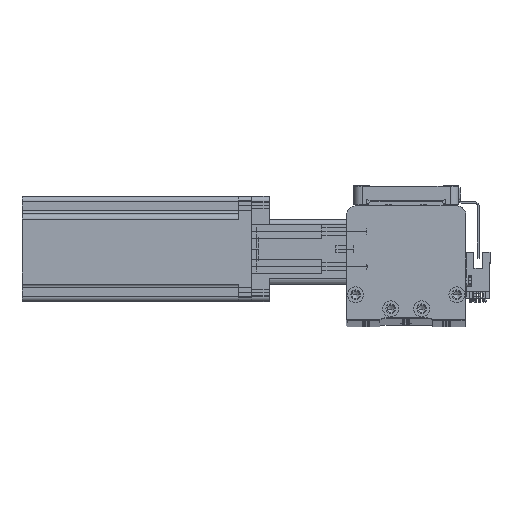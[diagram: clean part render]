
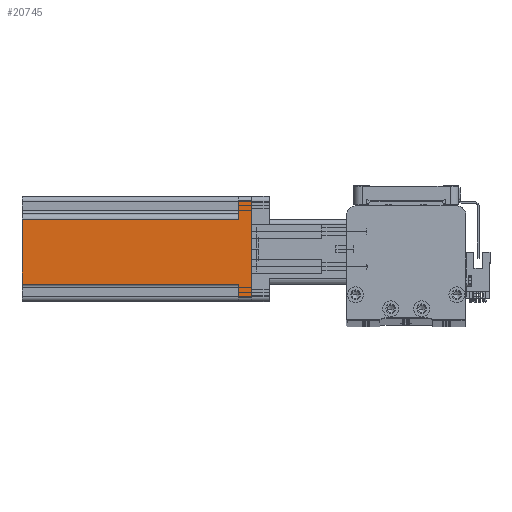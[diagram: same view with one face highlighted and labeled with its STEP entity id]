
A CAD part, top view. The second image highlights one B-rep face of the part: STEP entity #20745.
In plain terms, the highlighted planar face has unit normal (0, 0, 1) as drawn and (-1, 0, 0) by its records, which use the part's own axes.
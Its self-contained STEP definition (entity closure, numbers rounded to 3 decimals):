
#414 = CARTESIAN_POINT ( 'NONE',  ( -30., -17., 130.7 ) ) ;
#980 = LINE ( 'NONE', #2057, #45110 ) ;
#1914 = ORIENTED_EDGE ( 'NONE', *, *, #48246, .F. ) ;
#2057 = CARTESIAN_POINT ( 'NONE',  ( -30., 20., 7.5 ) ) ;
#2966 = CARTESIAN_POINT ( 'NONE',  ( -30., -30., 130.7 ) ) ;
#3509 = CARTESIAN_POINT ( 'NONE',  ( -30., 27., 7.5 ) ) ;
#7297 = DIRECTION ( 'NONE',  ( 1., 0., 0. ) ) ;
#7731 = EDGE_LOOP ( 'NONE', ( #41888, #40943, #24376, #1914, #21137, #19090, #14383, #45082 ) ) ;
#8279 = VERTEX_POINT ( 'NONE', #24650 ) ;
#8602 = LINE ( 'NONE', #52461, #19956 ) ;
#9698 = CARTESIAN_POINT ( 'NONE',  ( -30., 20., 130.7 ) ) ;
#10166 = CARTESIAN_POINT ( 'NONE',  ( -30., -30., 7.5 ) ) ;
#10387 = CARTESIAN_POINT ( 'NONE',  ( -30., 20., 7.5 ) ) ;
#11073 = VECTOR ( 'NONE', #20141, 1000. ) ;
#11610 = CARTESIAN_POINT ( 'NONE',  ( -30., -27., 7.5 ) ) ;
#13037 = VERTEX_POINT ( 'NONE', #37686 ) ;
#13745 = VERTEX_POINT ( 'NONE', #20908 ) ;
#14383 = ORIENTED_EDGE ( 'NONE', *, *, #41343, .T. ) ;
#15004 = VECTOR ( 'NONE', #21158, 1000. ) ;
#15376 = CARTESIAN_POINT ( 'NONE',  ( -30., -30., 0. ) ) ;
#15663 = PLANE ( 'NONE',  #19221 ) ;
#16794 = EDGE_CURVE ( 'NONE', #52750, #13745, #20191, .T. ) ;
#17163 = LINE ( 'NONE', #10166, #38600 ) ;
#17634 = EDGE_CURVE ( 'NONE', #13037, #51023, #43488, .T. ) ;
#19090 = ORIENTED_EDGE ( 'NONE', *, *, #16794, .T. ) ;
#19221 = AXIS2_PLACEMENT_3D ( 'NONE', #32913, #7297, #37199 ) ;
#19437 = DIRECTION ( 'NONE',  ( 0., 0., -1. ) ) ;
#19697 = DIRECTION ( 'NONE',  ( 0., -1., 0. ) ) ;
#19956 = VECTOR ( 'NONE', #48166, 1000. ) ;
#20141 = DIRECTION ( 'NONE',  ( 0., -1., 0. ) ) ;
#20191 = LINE ( 'NONE', #45072, #52979 ) ;
#20745 = ADVANCED_FACE ( 'NONE', ( #42829 ), #15663, .F. ) ;
#20908 = CARTESIAN_POINT ( 'NONE',  ( -30., 27., 0. ) ) ;
#21137 = ORIENTED_EDGE ( 'NONE', *, *, #46230, .T. ) ;
#21158 = DIRECTION ( 'NONE',  ( 0., 0., 1. ) ) ;
#21191 = VERTEX_POINT ( 'NONE', #10387 ) ;
#23875 = LINE ( 'NONE', #2966, #11073 ) ;
#23922 = VERTEX_POINT ( 'NONE', #9698 ) ;
#24376 = ORIENTED_EDGE ( 'NONE', *, *, #36471, .F. ) ;
#24650 = CARTESIAN_POINT ( 'NONE',  ( -30., -17., 7.5 ) ) ;
#32913 = CARTESIAN_POINT ( 'NONE',  ( -30., -30., 130.7 ) ) ;
#35415 = CARTESIAN_POINT ( 'NONE',  ( -30., -27., 130.7 ) ) ;
#35819 = DIRECTION ( 'NONE',  ( 0., -1., 0. ) ) ;
#36471 = EDGE_CURVE ( 'NONE', #23922, #43087, #23875, .T. ) ;
#37199 = DIRECTION ( 'NONE',  ( 0., 0., -1. ) ) ;
#37686 = CARTESIAN_POINT ( 'NONE',  ( -30., -27., 0. ) ) ;
#38208 = CARTESIAN_POINT ( 'NONE',  ( -30., -17., 130.7 ) ) ;
#38600 = VECTOR ( 'NONE', #35819, 1000. ) ;
#40943 = ORIENTED_EDGE ( 'NONE', *, *, #47432, .T. ) ;
#41343 = EDGE_CURVE ( 'NONE', #13745, #13037, #45218, .T. ) ;
#41888 = ORIENTED_EDGE ( 'NONE', *, *, #48740, .F. ) ;
#42829 = FACE_OUTER_BOUND ( 'NONE', #7731, .T. ) ;
#43087 = VERTEX_POINT ( 'NONE', #414 ) ;
#43488 = LINE ( 'NONE', #35415, #53523 ) ;
#44025 = DIRECTION ( 'NONE',  ( 0., 0., 1. ) ) ;
#45072 = CARTESIAN_POINT ( 'NONE',  ( -30., 27., 130.7 ) ) ;
#45082 = ORIENTED_EDGE ( 'NONE', *, *, #17634, .T. ) ;
#45110 = VECTOR ( 'NONE', #49157, 1000. ) ;
#45218 = LINE ( 'NONE', #15376, #46574 ) ;
#46230 = EDGE_CURVE ( 'NONE', #21191, #52750, #8602, .T. ) ;
#46574 = VECTOR ( 'NONE', #19697, 1000. ) ;
#47432 = EDGE_CURVE ( 'NONE', #8279, #43087, #49185, .T. ) ;
#48166 = DIRECTION ( 'NONE',  ( 0., 1., 0. ) ) ;
#48246 = EDGE_CURVE ( 'NONE', #21191, #23922, #980, .T. ) ;
#48740 = EDGE_CURVE ( 'NONE', #8279, #51023, #17163, .T. ) ;
#49157 = DIRECTION ( 'NONE',  ( 0., 0., 1. ) ) ;
#49185 = LINE ( 'NONE', #38208, #15004 ) ;
#51023 = VERTEX_POINT ( 'NONE', #11610 ) ;
#52461 = CARTESIAN_POINT ( 'NONE',  ( -30., 30., 7.5 ) ) ;
#52750 = VERTEX_POINT ( 'NONE', #3509 ) ;
#52979 = VECTOR ( 'NONE', #19437, 1000. ) ;
#53523 = VECTOR ( 'NONE', #44025, 1000. ) ;
